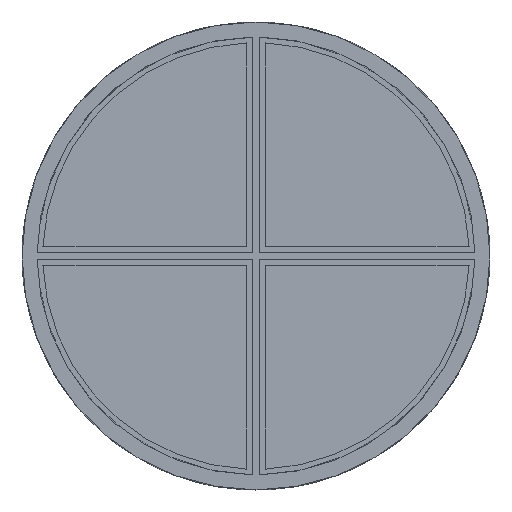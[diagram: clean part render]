
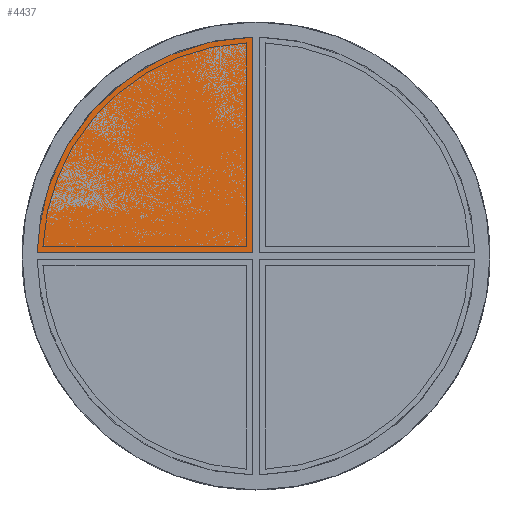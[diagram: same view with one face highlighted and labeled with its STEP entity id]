
A CAD part, top view. The second image highlights one B-rep face of the part: STEP entity #4437.
In plain terms, the highlighted planar face has unit normal (0, 0, 1).
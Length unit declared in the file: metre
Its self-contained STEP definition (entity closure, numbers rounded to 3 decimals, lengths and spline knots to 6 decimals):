
#161=CIRCLE('',#4561,0.029655);
#1378=ORIENTED_EDGE('',*,*,#1560,.F.);
#1379=ORIENTED_EDGE('',*,*,#1650,.F.);
#1380=ORIENTED_EDGE('',*,*,#1592,.T.);
#1560=EDGE_CURVE('',#2189,#2190,#2612,.T.);
#1592=EDGE_CURVE('',#2220,#2190,#161,.T.);
#1650=EDGE_CURVE('',#2220,#2189,#2648,.T.);
#2189=VERTEX_POINT('',#6351);
#2190=VERTEX_POINT('',#6353);
#2220=VERTEX_POINT('',#6416);
#2612=LINE('',#6352,#3032);
#2648=LINE('',#6530,#3068);
#3032=VECTOR('',#5030,1.);
#3068=VECTOR('',#5180,1.);
#3690=EDGE_LOOP('',(#1378,#1379,#1380));
#4016=FACE_BOUND('',#3690,.T.);
#4227=PLANE('',#4915);
#4437=ADVANCED_FACE('',(#4016),#4227,.T.);
#4561=AXIS2_PLACEMENT_3D('',#6415,#5088,#5089);
#4915=AXIS2_PLACEMENT_3D('',#7421,#6127,#6128);
#5030=DIRECTION('',(-1.,0.,0.));
#5088=DIRECTION('',(0.,0.,1.));
#5089=DIRECTION('',(1.,0.,0.));
#5180=DIRECTION('',(0.,-1.,0.));
#6127=DIRECTION('',(0.,0.,1.));
#6128=DIRECTION('',(1.,0.,0.));
#6351=CARTESIAN_POINT('',(-0.000508,0.000508,0.002032));
#6352=CARTESIAN_POINT('',(0.,0.000508,0.002032));
#6353=CARTESIAN_POINT('',(-0.02965,0.000508,0.002032));
#6415=CARTESIAN_POINT('',(0.,0.,0.002032));
#6416=CARTESIAN_POINT('',(-0.000508,0.02965,0.002032));
#6530=CARTESIAN_POINT('',(-0.000508,0.,0.002032));
#7421=CARTESIAN_POINT('',(0.,0.,0.002032));
